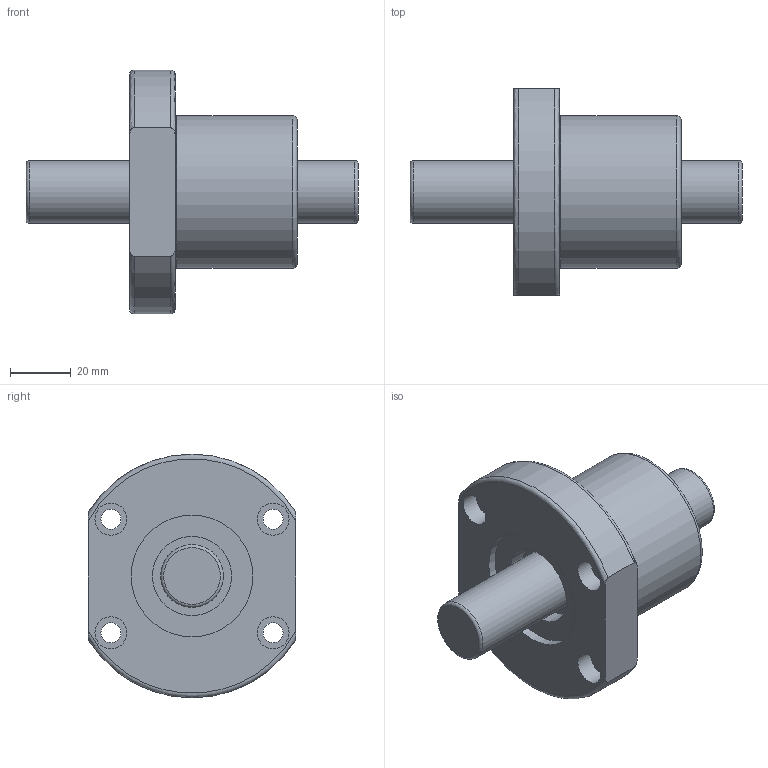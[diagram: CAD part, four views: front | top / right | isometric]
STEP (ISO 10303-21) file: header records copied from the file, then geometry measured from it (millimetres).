
FILE_DESCRIPTION(/* description */ (''),/* implementation_level */ '2;1');
FILE_NAME(/* name */ 'SFK2002.stp',/* time_stamp */ '2014-06-18T16:27:18+08:00',/* author */ (''),/* organization */ (''),/* preprocessor_version */ 'ST-DEVELOPER v11',/* originating_system */ 'SIEMENS UGS NX 6.0',/* authorisation */ '');
FILE_SCHEMA (('CONFIG_CONTROL_DESIGN'));
Length unit declared in the file: millimetre
Products named in the file (1): bill5C7Acaj2
Bounding box: 109 x 68 x 80 mm (x, y, z)
Volume: 158056.4 mm3; surface area: 31364.7 mm2
Topology: 2 solids, 2 shells, 38 faces, 79 edges, 53 vertices
Faces by surface type: cylinder 16, plane 14, torus 8
Full cylindrical faces by diameter (mm): 6.6 x4, 10.5 x4, 20.6 x2, 26 x2, 40 x1, 50 x1
Entity records: 1040 total; most frequent: CARTESIAN_POINT 199, DIRECTION 166, ORIENTED_EDGE 112, AXIS2_PLACEMENT_3D 79, EDGE_LOOP 74, FACE_BOUND 64, EDGE_CURVE 56, VERTEX_POINT 48
